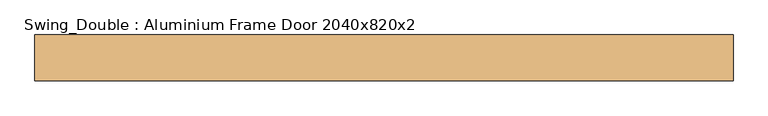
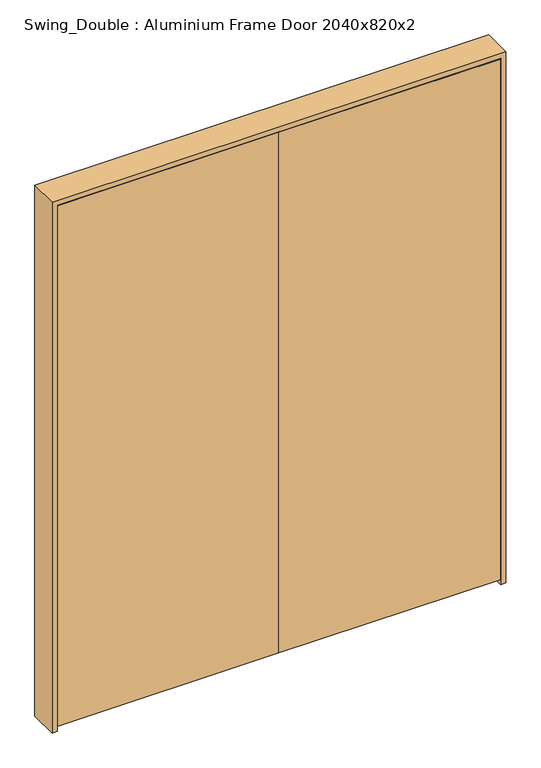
"""IFC4 building model written with IfcOpenShell, lengths in millimetres: door geometry, Swing_Double : Aluminium Frame Door 2040x820x2."""

from ifc_helpers import new_model, si_unit, frame, origin, place, context, project, spatial, polyline, outline, extrude, faceted_brep, source, transform, mapped, element, save


def swing_double_aluminium_frame_door_2040x820x2_fabc3898(model_context):
    return source(origin(), model_context, "Body", "SolidModel", [
        extrude(outline(polyline([(-211.5, -55.0), (-211.5, -15.0), (608.5, -15.0), (608.5, -55.0), (-211.5, -55.0)])), frame((0.0, 0.0, 20.0), z_axis=(0.0, 0.0, 1.0), x_axis=(1.0, 0.0, 0.0)), (0.0, 0.0, 1.0), 2040.0),
        extrude(outline(polyline([(-211.5, -55.0), (-1031.5, -55.0), (-1031.5, -15.0), (-211.5, -15.0), (-211.5, -55.0)])), frame((0.0, 0.0, 20.0), z_axis=(0.0, 0.0, 1.0), x_axis=(1.0, 0.0, 0.0)), (0.0, 0.0, 1.0), 2040.0),
        faceted_brep([(629.5, 55.0, 0.0), (629.5, -55.0, 0.0), (610.5, -55.0, 0.0), (610.5, -13.0, 0.0), (590.5, -13.0, 0.0), (590.5, 55.0, 0.0), (590.5, 55.0, 2042.0), (-1013.5, 55.0, 2042.0), (-1013.5, 55.0, 0.0), (-1052.5, 55.0, 0.0), (-1052.5, 55.0, 2081.0), (629.5, 55.0, 2081.0), (590.5, -13.0, 2042.0), (610.5, -13.0, 2062.0), (-1033.5, -13.0, 2062.0), (-1033.5, -13.0, 0.0), (-1013.5, -13.0, 0.0), (-1013.5, -13.0, 2042.0), (610.5, -55.0, 2062.0), (629.5, -55.0, 2081.0), (-1052.5, -55.0, 2081.0), (-1052.5, -55.0, 0.0), (-1033.5, -55.0, 0.0), (-1033.5, -55.0, 2062.0)], [[[0, 1, 2, 3, 4, 5]], [[5, 6, 7, 8, 9, 10, 11, 0]], [[4, 12, 6, 5]], [[3, 13, 14, 15, 16, 17, 12, 4]], [[2, 18, 13, 3]], [[1, 19, 20, 21, 22, 23, 18, 2]], [[0, 11, 19, 1]], [[23, 22, 15, 14]], [[9, 8, 16, 15, 22, 21]], [[10, 9, 21, 20]], [[17, 16, 8, 7]], [[11, 10, 20, 19]], [[18, 23, 14, 13]], [[12, 17, 7, 6]]]),
    ])


if __name__ == "__main__":
    model = new_model("IFC4")
    model_context = context("Model", 3, world=origin())
    ifc_project = project(units=[si_unit("LENGTHUNIT", "METRE", prefix="MILLI")], contexts=[model_context])
    site = spatial("IfcSite", under=ifc_project)
    building = spatial("IfcBuilding", under=site)
    placement = place(None, origin())
    swing_double_aluminium_frame_door_2040x820x2_shape = swing_double_aluminium_frame_door_2040x820x2_fabc3898(model_context)
    element("IfcDoor", 1, ObjectType="Swing_Double : Aluminium Frame Door 2040x820x2", at=placement, inside=building, context=model_context, shape_type="MappedRepresentation", body=[
        mapped(swing_double_aluminium_frame_door_2040x820x2_shape, transform((0.0, 0.0, 0.0), x_axis=(1.0, 0.0, 0.0), y_axis=(0.0, 1.0, 0.0), z_axis=(0.0, 0.0, 1.0))),
    ])
    save(model, "model.ifc")
